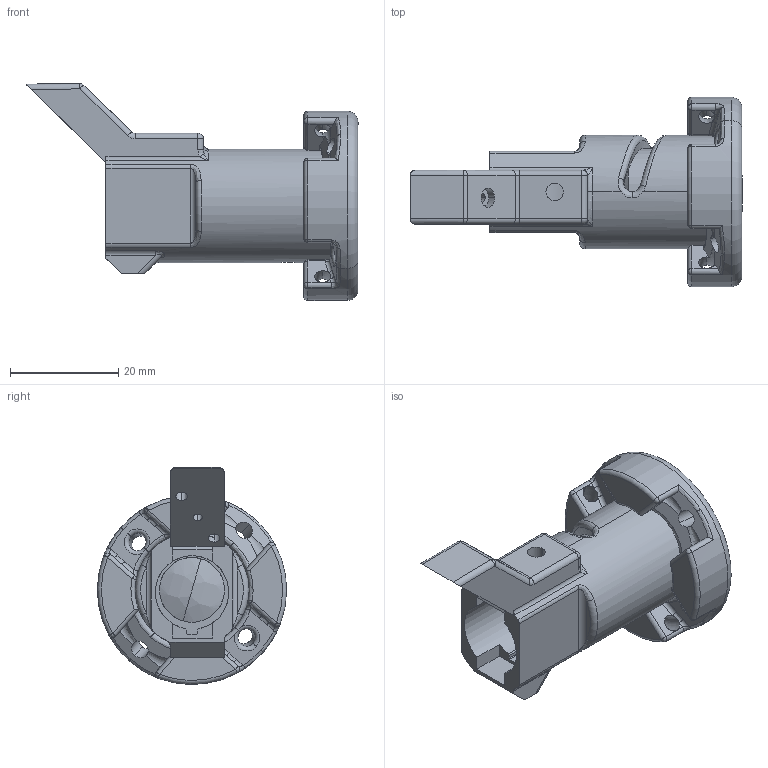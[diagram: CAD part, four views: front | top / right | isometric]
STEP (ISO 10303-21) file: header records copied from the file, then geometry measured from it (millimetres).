
FILE_DESCRIPTION (( 'STEP AP214' ), '1' );
FILE_NAME ('TI Telescope #1 Jan10.STEP', '2017-01-10T14:57:38', ( '' ), ( '' ), 'SwSTEP 2.0', 'SolidWorks 2016', '' );
FILE_SCHEMA (( 'AUTOMOTIVE_DESIGN' ));
Length unit declared in the file: millimetre
Products named in the file (8): Orignal Lamp Ring; Lens assemblyA; Edmund_45793; 45793-2; 45793-1; Lens Mnt TubeA; Telescope bodyA; TI Telescope #1 Jan10
Assembly tree (8 placements, depth 4):
  TI Telescope #1 Jan10
    Telescope bodyA
    Lens assemblyA
      Lens Mnt TubeA
      Edmund_45793  x2
        45793-1
        45793-2
    Orignal Lamp Ring
Bounding box: 61.38 x 34.99 x 40.12 mm (x, y, z)
Volume: 14934.8 mm3; surface area: 12806.6 mm2
Topology: 7 solids, 7 shells, 305 faces, 776 edges, 462 vertices
Faces by surface type: cylinder 112, plane 69, bspline 68, torus 32, sphere 18, cone 6
Entity records: 11677 total; most frequent: CARTESIAN_POINT 4851, ORIENTED_EDGE 1460, DIRECTION 1312, EDGE_CURVE 730, AXIS2_PLACEMENT_3D 535, VERTEX_POINT 442, EDGE_LOOP 316, FACE_OUTER_BOUND 293
